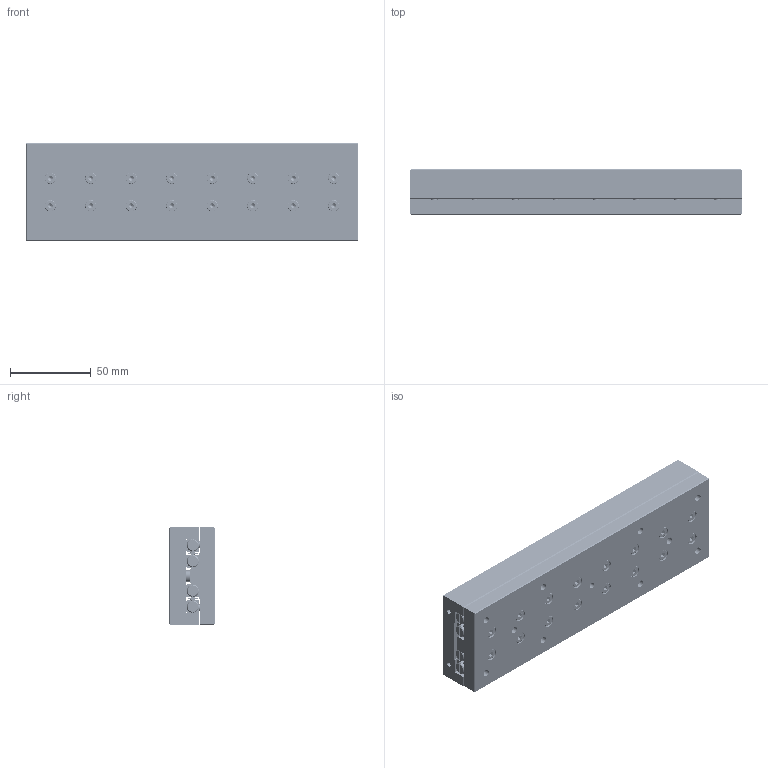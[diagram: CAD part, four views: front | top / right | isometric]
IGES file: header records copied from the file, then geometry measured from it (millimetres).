
Start section: SolidWorks IGES file using analytic representation for surfaces
Global section: file name: C:\Documents and Settings\IanO.IANOHOME\My Documents\Wix and Auto CAD Work\CAD Models\Parametric Models\Auto Models\L1020\L1020_IGES\L1020.060-205.igs; native system: SolidWorks 2009; preprocessor: SolidWorks 2009; author: IanO; date: 110922.162805; units: millimetre
Bounding box: 205 x 28 x 60 mm (x, y, z)
Surface area: 125917.3 mm2 (no closed solid volume)
Topology: 0 solids, 0 shells, 2394 faces, 33024 edges, 32944 vertices
Faces by surface type: bspline 1482, revolution 912
